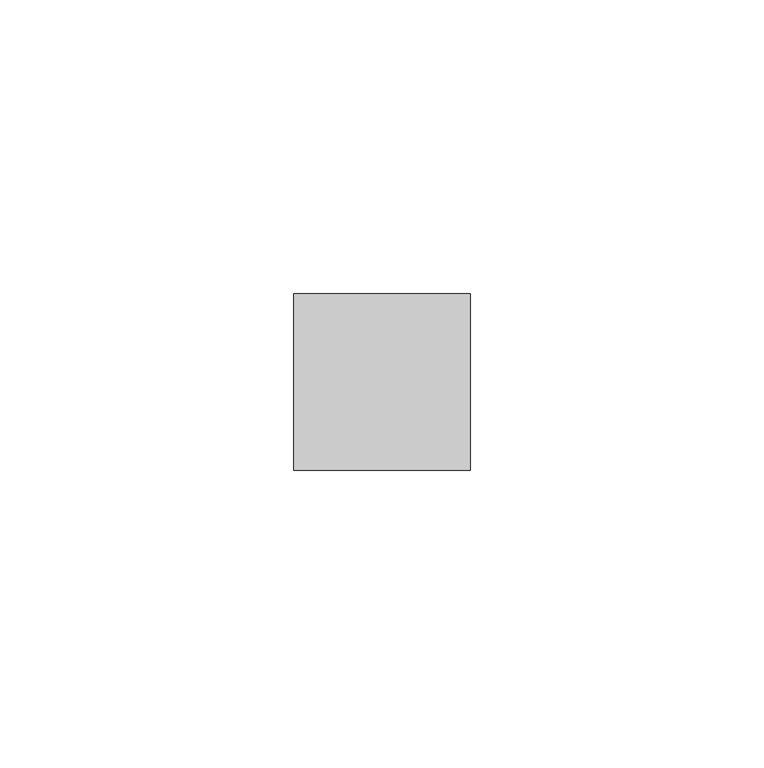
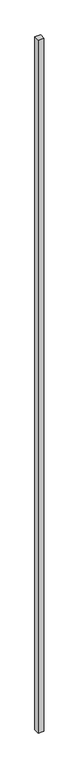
"""IFC4 building model written with IfcOpenShell, lengths in millimetres: member geometry, 矩形竖梃 : 30mm 正方形."""

from ifc_helpers import new_model, si_unit, frame, origin, place, context, project, spatial, polyline, outline, extrude, source, transform, mapped, element, save


def member_a96ad222(model_context):
    return source(origin(), model_context, "Body", "SweptSolid", [
        extrude(outline(polyline([(15.0, 15.0), (15.0, -15.0), (-15.0, -15.0), (-15.0, 15.0), (15.0, 15.0)])), frame((0.0, 0.0, -3900.0), z_axis=(0.0, 0.0, 1.0), x_axis=(1.0, 0.0, 0.0)), (0.0, 0.0, 1.0), 3900.0),
    ])


if __name__ == "__main__":
    model = new_model("IFC4")
    model_context = context("Model", 3, world=origin())
    ifc_project = project(units=[si_unit("LENGTHUNIT", "METRE", prefix="MILLI")], contexts=[model_context])
    site = spatial("IfcSite", under=ifc_project)
    building = spatial("IfcBuilding", under=site)
    placement = place(None, origin())
    member_shape = member_a96ad222(model_context)
    element("IfcMember", 1, ObjectType="矩形竖梃 : 30mm 正方形", at=placement, inside=building, context=model_context, shape_type="MappedRepresentation", body=[
        mapped(member_shape, transform((0.0, 0.0, 0.0), x_axis=(1.0, 0.0, 0.0), y_axis=(0.0, 1.0, 0.0), z_axis=(0.0, 0.0, 1.0))),
    ])
    save(model, "model.ifc")
